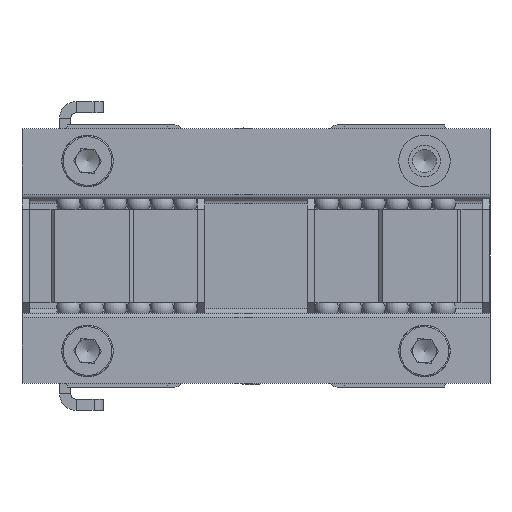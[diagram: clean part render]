
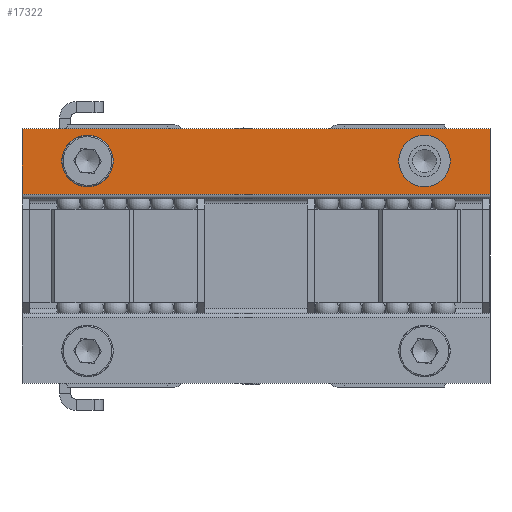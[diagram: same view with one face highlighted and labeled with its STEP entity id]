
A CAD part, front view. The second image highlights one B-rep face of the part: STEP entity #17322.
In plain terms, the highlighted planar face has unit normal (0, -1, 0).
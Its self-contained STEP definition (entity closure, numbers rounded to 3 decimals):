
#149=FACE_BOUND('',#1933,.T.);
#150=FACE_BOUND('',#1934,.T.);
#997=FACE_OUTER_BOUND('',#1932,.T.);
#1932=EDGE_LOOP('',(#13529,#13530,#13531,#13532));
#1933=EDGE_LOOP('',(#13533,#13534));
#1934=EDGE_LOOP('',(#13535,#13536));
#3219=LINE('',#28450,#4678);
#3228=LINE('',#28495,#4687);
#3229=LINE('',#28497,#4688);
#3230=LINE('',#28498,#4689);
#4678=VECTOR('',#22667,1000.);
#4687=VECTOR('',#22714,1000.);
#4688=VECTOR('',#22715,1000.);
#4689=VECTOR('',#22716,1000.);
#5936=CIRCLE('',#18906,2.75);
#5937=CIRCLE('',#18907,2.75);
#5941=CIRCLE('',#18913,2.75);
#5942=CIRCLE('',#18914,2.75);
#7435=VERTEX_POINT('',#28424);
#7436=VERTEX_POINT('',#28426);
#7440=VERTEX_POINT('',#28437);
#7441=VERTEX_POINT('',#28439);
#7442=VERTEX_POINT('',#28443);
#7445=VERTEX_POINT('',#28448);
#7462=VERTEX_POINT('',#28494);
#7463=VERTEX_POINT('',#28496);
#9716=EDGE_CURVE('',#7436,#7435,#5936,.T.);
#9717=EDGE_CURVE('',#7435,#7436,#5937,.T.);
#9722=EDGE_CURVE('',#7441,#7440,#5941,.T.);
#9723=EDGE_CURVE('',#7440,#7441,#5942,.T.);
#9727=EDGE_CURVE('',#7445,#7442,#3219,.T.);
#9748=EDGE_CURVE('',#7445,#7462,#3228,.T.);
#9749=EDGE_CURVE('',#7462,#7463,#3229,.T.);
#9750=EDGE_CURVE('',#7442,#7463,#3230,.T.);
#13529=ORIENTED_EDGE('',*,*,#9748,.T.);
#13530=ORIENTED_EDGE('',*,*,#9749,.T.);
#13531=ORIENTED_EDGE('',*,*,#9750,.F.);
#13532=ORIENTED_EDGE('',*,*,#9727,.F.);
#13533=ORIENTED_EDGE('',*,*,#9722,.T.);
#13534=ORIENTED_EDGE('',*,*,#9723,.T.);
#13535=ORIENTED_EDGE('',*,*,#9716,.T.);
#13536=ORIENTED_EDGE('',*,*,#9717,.T.);
#15793=PLANE('',#18934);
#17322=ADVANCED_FACE('',(#997,#149,#150),#15793,.T.);
#18906=AXIS2_PLACEMENT_3D('',#28427,#22643,#22644);
#18907=AXIS2_PLACEMENT_3D('',#28428,#22645,#22646);
#18913=AXIS2_PLACEMENT_3D('',#28440,#22658,#22659);
#18914=AXIS2_PLACEMENT_3D('',#28441,#22660,#22661);
#18934=AXIS2_PLACEMENT_3D('',#28493,#22712,#22713);
#22643=DIRECTION('center_axis',(0.,1.,0.));
#22644=DIRECTION('ref_axis',(0.,0.,
1.));
#22645=DIRECTION('center_axis',(0.,1.,0.));
#22646=DIRECTION('ref_axis',(0.,0.,
1.));
#22658=DIRECTION('center_axis',(0.,1.,0.));
#22659=DIRECTION('ref_axis',(0.,0.,
1.));
#22660=DIRECTION('center_axis',(0.,1.,0.));
#22661=DIRECTION('ref_axis',(0.,0.,
1.));
#22667=DIRECTION('',(1.,0.,0.));
#22712=DIRECTION('center_axis',(0.,-1.,0.));
#22713=DIRECTION('ref_axis',(0.,0.,
1.));
#22714=DIRECTION('',(0.,0.,-1.));
#22715=DIRECTION('',(1.,0.,0.));
#22716=DIRECTION('',(0.,0.,-1.));
#28424=CARTESIAN_POINT('',(6.047,-23.539,7.4));
#28426=CARTESIAN_POINT('',(6.047,-23.539,12.9));
#28427=CARTESIAN_POINT('Origin',(6.047,-23.539,10.15));
#28428=CARTESIAN_POINT('Origin',(6.047,-23.539,10.15));
#28437=CARTESIAN_POINT('',(-29.953,-23.539,7.4));
#28439=CARTESIAN_POINT('',(-29.953,-23.539,12.9));
#28440=CARTESIAN_POINT('Origin',(-29.953,-23.539,10.15));
#28441=CARTESIAN_POINT('Origin',(-29.953,-23.539,10.15));
#28443=CARTESIAN_POINT('',(13.047,-23.539,13.6));
#28448=CARTESIAN_POINT('',(-36.953,-23.539,13.6));
#28450=CARTESIAN_POINT('',(-36.953,-23.539,13.6));
#28493=CARTESIAN_POINT('Origin',(-36.953,-23.539,13.6));
#28494=CARTESIAN_POINT('',(-36.953,-23.539,6.6));
#28495=CARTESIAN_POINT('',(-36.953,-23.539,13.6));
#28496=CARTESIAN_POINT('',(13.047,-23.539,6.6));
#28497=CARTESIAN_POINT('',(-36.953,-23.539,6.6));
#28498=CARTESIAN_POINT('',(13.047,-23.539,0.));
